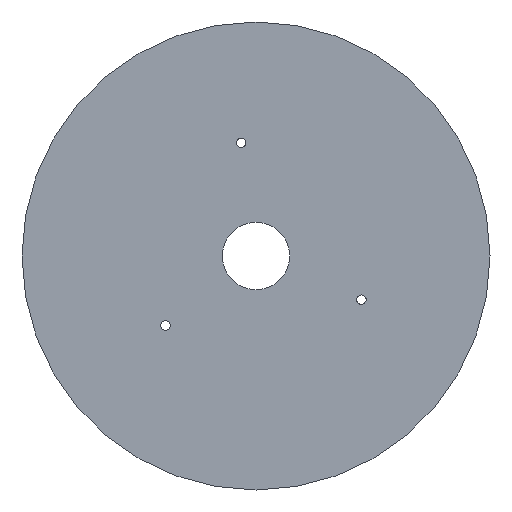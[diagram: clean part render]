
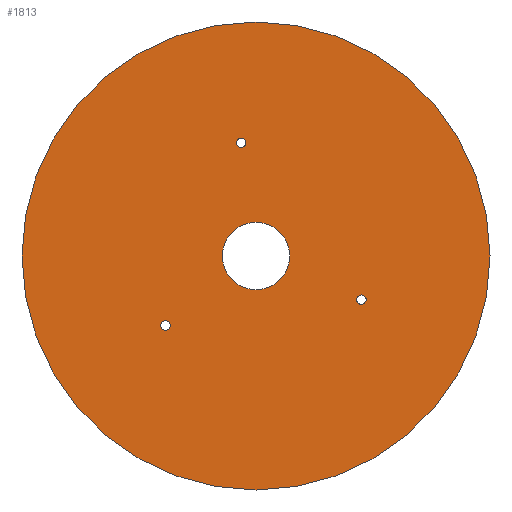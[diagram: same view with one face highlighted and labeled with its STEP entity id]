
A CAD part, front view. The second image highlights one B-rep face of the part: STEP entity #1813.
In plain terms, the highlighted planar face has unit normal (0, -1, 0).
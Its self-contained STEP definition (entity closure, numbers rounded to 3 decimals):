
#43 = AXIS2_PLACEMENT_3D ( 'NONE', #980, #976, #974 ) ;
#974 = DIRECTION ( 'NONE',  ( 0., 0., 1. ) ) ;
#976 = DIRECTION ( 'NONE',  ( 0., 1., 0. ) ) ;
#980 = CARTESIAN_POINT ( 'NONE',  ( 0., 0., 0. ) ) ;
#982 = PLANE ( 'NONE',  #43 ) ;
#1763 = CIRCLE ( 'NONE', #2962, 5.75 ) ;
#1781 = CIRCLE ( 'NONE', #1782, 40. ) ;
#1782 = AXIS2_PLACEMENT_3D ( 'NONE', #11860, #11858, #11856 ) ;
#1813 = ADVANCED_FACE ( 'NONE', ( #4373, #4374, #4375, #4376, #4377 ), #982, .F. ) ;
#2951 = CIRCLE ( 'NONE', #2952, 0.8 ) ;
#2952 = AXIS2_PLACEMENT_3D ( 'NONE', #11839, #11836, #11834 ) ;
#2953 = CIRCLE ( 'NONE', #2954, 0.8 ) ;
#2954 = AXIS2_PLACEMENT_3D ( 'NONE', #11827, #11824, #12071 ) ;
#2955 = CIRCLE ( 'NONE', #2956, 0.8 ) ;
#2956 = AXIS2_PLACEMENT_3D ( 'NONE', #12070, #12069, #12068 ) ;
#2961 = CIRCLE ( 'NONE', #2968, 0.8 ) ;
#2962 = AXIS2_PLACEMENT_3D ( 'NONE', #12059, #12058, #12057 ) ;
#2967 = CIRCLE ( 'NONE', #2975, 0.8 ) ;
#2968 = AXIS2_PLACEMENT_3D ( 'NONE', #12047, #12045, #12044 ) ;
#2974 = CIRCLE ( 'NONE', #2981, 0.8 ) ;
#2975 = AXIS2_PLACEMENT_3D ( 'NONE', #12034, #12032, #12031 ) ;
#2980 = CIRCLE ( 'NONE', #2987, 40. ) ;
#2981 = AXIS2_PLACEMENT_3D ( 'NONE', #12021, #12020, #12019 ) ;
#2987 = AXIS2_PLACEMENT_3D ( 'NONE', #12009, #12008, #12007 ) ;
#4373 = FACE_BOUND ( 'NONE', #5681, .T. ) ;
#4374 = FACE_BOUND ( 'NONE', #5652, .T. ) ;
#4375 = FACE_BOUND ( 'NONE', #5672, .T. ) ;
#4376 = FACE_BOUND ( 'NONE', #5647, .T. ) ;
#4377 = FACE_OUTER_BOUND ( 'NONE', #5658, .T. ) ;
#5647 = EDGE_LOOP ( 'NONE', ( #7179, #7184 ) ) ;
#5652 = EDGE_LOOP ( 'NONE', ( #7175, #7180 ) ) ;
#5658 = EDGE_LOOP ( 'NONE', ( #7181, #6081 ) ) ;
#5672 = EDGE_LOOP ( 'NONE', ( #7177, #7182 ) ) ;
#5681 = EDGE_LOOP ( 'NONE', ( #7176, #7178 ) ) ;
#6081 = ORIENTED_EDGE ( 'NONE', *, *, #6357, .F. ) ;
#6334 = EDGE_CURVE ( 'NONE', #6863, #6864, #1781, .T. ) ;
#6335 = EDGE_CURVE ( 'NONE', #6879, #6881, #10044, .T. ) ;
#6336 = EDGE_CURVE ( 'NONE', #6875, #6876, #2951, .T. ) ;
#6337 = EDGE_CURVE ( 'NONE', #6871, #6872, #2953, .T. ) ;
#6338 = EDGE_CURVE ( 'NONE', #6867, #6868, #2955, .T. ) ;
#6341 = EDGE_CURVE ( 'NONE', #6881, #6879, #1763, .T. ) ;
#6345 = EDGE_CURVE ( 'NONE', #6876, #6875, #2961, .T. ) ;
#6349 = EDGE_CURVE ( 'NONE', #6872, #6871, #2967, .T. ) ;
#6353 = EDGE_CURVE ( 'NONE', #6868, #6867, #2974, .T. ) ;
#6357 = EDGE_CURVE ( 'NONE', #6864, #6863, #2980, .T. ) ;
#6863 = VERTEX_POINT ( 'NONE', #8391 ) ;
#6864 = VERTEX_POINT ( 'NONE', #8390 ) ;
#6867 = VERTEX_POINT ( 'NONE', #8386 ) ;
#6868 = VERTEX_POINT ( 'NONE', #8384 ) ;
#6871 = VERTEX_POINT ( 'NONE', #8381 ) ;
#6872 = VERTEX_POINT ( 'NONE', #8379 ) ;
#6875 = VERTEX_POINT ( 'NONE', #8376 ) ;
#6876 = VERTEX_POINT ( 'NONE', #8375 ) ;
#6879 = VERTEX_POINT ( 'NONE', #8370 ) ;
#6881 = VERTEX_POINT ( 'NONE', #8368 ) ;
#7175 = ORIENTED_EDGE ( 'NONE', *, *, #6336, .F. ) ;
#7176 = ORIENTED_EDGE ( 'NONE', *, *, #6335, .F. ) ;
#7177 = ORIENTED_EDGE ( 'NONE', *, *, #6337, .F. ) ;
#7178 = ORIENTED_EDGE ( 'NONE', *, *, #6341, .F. ) ;
#7179 = ORIENTED_EDGE ( 'NONE', *, *, #6338, .F. ) ;
#7180 = ORIENTED_EDGE ( 'NONE', *, *, #6345, .F. ) ;
#7181 = ORIENTED_EDGE ( 'NONE', *, *, #6334, .F. ) ;
#7182 = ORIENTED_EDGE ( 'NONE', *, *, #6349, .F. ) ;
#7184 = ORIENTED_EDGE ( 'NONE', *, *, #6353, .F. ) ;
#8368 = CARTESIAN_POINT ( 'NONE',  ( 0., 0., 5.75 ) ) ;
#8370 = CARTESIAN_POINT ( 'NONE',  ( 0., 0., -5.75 ) ) ;
#8375 = CARTESIAN_POINT ( 'NONE',  ( -2.545, 0., 20.133 ) ) ;
#8376 = CARTESIAN_POINT ( 'NONE',  ( -2.545, 0., 18.533 ) ) ;
#8379 = CARTESIAN_POINT ( 'NONE',  ( -15.47, 0., -11.071 ) ) ;
#8381 = CARTESIAN_POINT ( 'NONE',  ( -15.47, 0., -12.671 ) ) ;
#8384 = CARTESIAN_POINT ( 'NONE',  ( 18.016, 0., -6.662 ) ) ;
#8386 = CARTESIAN_POINT ( 'NONE',  ( 18.016, 0., -8.262 ) ) ;
#8390 = CARTESIAN_POINT ( 'NONE',  ( 0., 0., 40. ) ) ;
#8391 = CARTESIAN_POINT ( 'NONE',  ( 0., 0., -40. ) ) ;
#9922 = AXIS2_PLACEMENT_3D ( 'NONE', #11850, #11847, #11844 ) ;
#10044 = CIRCLE ( 'NONE', #9922, 5.75 ) ;
#11824 = DIRECTION ( 'NONE',  ( 0., -1., 0. ) ) ;
#11827 = CARTESIAN_POINT ( 'NONE',  ( -15.47, 0., -11.871 ) ) ;
#11834 = DIRECTION ( 'NONE',  ( 0., 0., -1. ) ) ;
#11836 = DIRECTION ( 'NONE',  ( 0., -1., 0. ) ) ;
#11839 = CARTESIAN_POINT ( 'NONE',  ( -2.545, 0., 19.333 ) ) ;
#11844 = DIRECTION ( 'NONE',  ( 0., 0., -1. ) ) ;
#11847 = DIRECTION ( 'NONE',  ( 0., -1., 0. ) ) ;
#11850 = CARTESIAN_POINT ( 'NONE',  ( 0., 0., 0. ) ) ;
#11856 = DIRECTION ( 'NONE',  ( 0., 0., 1. ) ) ;
#11858 = DIRECTION ( 'NONE',  ( 0., 1., 0. ) ) ;
#11860 = CARTESIAN_POINT ( 'NONE',  ( 0., 0., 0. ) ) ;
#12007 = DIRECTION ( 'NONE',  ( 0., 0., 1. ) ) ;
#12008 = DIRECTION ( 'NONE',  ( 0., 1., 0. ) ) ;
#12009 = CARTESIAN_POINT ( 'NONE',  ( 0., 0., 0. ) ) ;
#12019 = DIRECTION ( 'NONE',  ( 0., 0., -1. ) ) ;
#12020 = DIRECTION ( 'NONE',  ( 0., -1., 0. ) ) ;
#12021 = CARTESIAN_POINT ( 'NONE',  ( 18.016, 0., -7.462 ) ) ;
#12031 = DIRECTION ( 'NONE',  ( 0., 0., -1. ) ) ;
#12032 = DIRECTION ( 'NONE',  ( 0., -1., 0. ) ) ;
#12034 = CARTESIAN_POINT ( 'NONE',  ( -15.47, 0., -11.871 ) ) ;
#12044 = DIRECTION ( 'NONE',  ( 0., 0., -1. ) ) ;
#12045 = DIRECTION ( 'NONE',  ( 0., -1., 0. ) ) ;
#12047 = CARTESIAN_POINT ( 'NONE',  ( -2.545, 0., 19.333 ) ) ;
#12057 = DIRECTION ( 'NONE',  ( 0., 0., -1. ) ) ;
#12058 = DIRECTION ( 'NONE',  ( 0., -1., 0. ) ) ;
#12059 = CARTESIAN_POINT ( 'NONE',  ( 0., 0., 0. ) ) ;
#12068 = DIRECTION ( 'NONE',  ( 0., 0., -1. ) ) ;
#12069 = DIRECTION ( 'NONE',  ( 0., -1., 0. ) ) ;
#12070 = CARTESIAN_POINT ( 'NONE',  ( 18.016, 0., -7.462 ) ) ;
#12071 = DIRECTION ( 'NONE',  ( 0., 0., -1. ) ) ;
